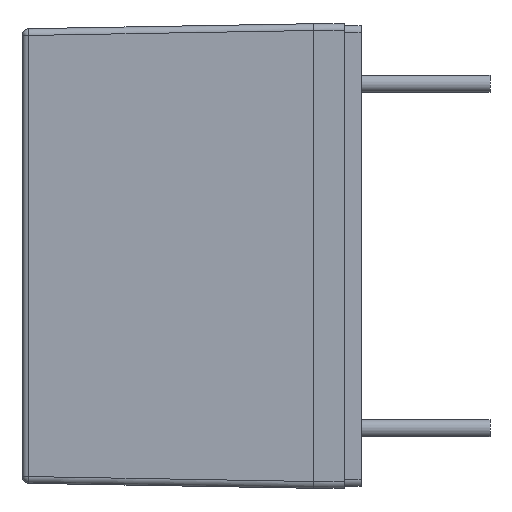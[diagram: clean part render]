
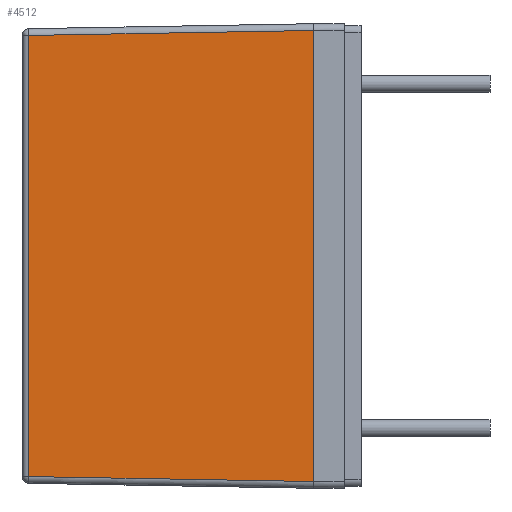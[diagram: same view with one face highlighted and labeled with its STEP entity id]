
A CAD part, left-side view. The second image highlights one B-rep face of the part: STEP entity #4512.
In plain terms, the highlighted planar face has unit normal (-1, 0.018, 0).
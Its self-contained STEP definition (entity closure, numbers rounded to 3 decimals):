
#95 = CARTESIAN_POINT ( 'NONE',  ( -11.853, 9.803, -6.7 ) ) ;
#104 = ORIENTED_EDGE ( 'NONE', *, *, #4484, .T. ) ;
#187 = DIRECTION ( 'NONE',  ( 0., 0., 1. ) ) ;
#432 = VERTEX_POINT ( 'NONE', #619 ) ;
#475 = EDGE_LOOP ( 'NONE', ( #3631, #104, #3980, #4545 ) ) ;
#524 = CARTESIAN_POINT ( 'NONE',  ( -11.996, 1.636, -6.646 ) ) ;
#619 = CARTESIAN_POINT ( 'NONE',  ( -11.853, 9.803, -6.503 ) ) ;
#912 = CARTESIAN_POINT ( 'NONE',  ( -12., 1.4, 6.85 ) ) ;
#936 = LINE ( 'NONE', #912, #2752 ) ;
#1266 = LINE ( 'NONE', #95, #3914 ) ;
#1619 = CARTESIAN_POINT ( 'NONE',  ( -11.853, 9.803, 6.503 ) ) ;
#1645 = EDGE_CURVE ( 'NONE', #2672, #3747, #1966, .T. ) ;
#1794 = VECTOR ( 'NONE', #3750, 1000. ) ;
#1966 = LINE ( 'NONE', #3929, #1794 ) ;
#1982 = DIRECTION ( 'NONE',  ( -0.017, -1., -0.017 ) ) ;
#2005 = EDGE_CURVE ( 'NONE', #3747, #432, #1266, .T. ) ;
#2289 = VECTOR ( 'NONE', #1982, 1000. ) ;
#2349 = DIRECTION ( 'NONE',  ( 0., 0., 1. ) ) ;
#2660 = PLANE ( 'NONE',  #3248 ) ;
#2672 = VERTEX_POINT ( 'NONE', #2714 ) ;
#2714 = CARTESIAN_POINT ( 'NONE',  ( -12., 1.4, 6.65 ) ) ;
#2752 = VECTOR ( 'NONE', #2349, 1000. ) ;
#2988 = DIRECTION ( 'NONE',  ( 0., 0., -1. ) ) ;
#2993 = EDGE_CURVE ( 'NONE', #4442, #2672, #936, .T. ) ;
#3081 = CARTESIAN_POINT ( 'NONE',  ( -12., 1.4, -6.65 ) ) ;
#3248 = AXIS2_PLACEMENT_3D ( 'NONE', #4110, #3770, #187 ) ;
#3395 = FACE_OUTER_BOUND ( 'NONE', #475, .T. ) ;
#3445 = LINE ( 'NONE', #524, #2289 ) ;
#3631 = ORIENTED_EDGE ( 'NONE', *, *, #2005, .T. ) ;
#3747 = VERTEX_POINT ( 'NONE', #1619 ) ;
#3750 = DIRECTION ( 'NONE',  ( 0.017, 1., -0.017 ) ) ;
#3770 = DIRECTION ( 'NONE',  ( -1., 0.017, 0. ) ) ;
#3914 = VECTOR ( 'NONE', #2988, 1000. ) ;
#3929 = CARTESIAN_POINT ( 'NONE',  ( -12., 1.397, 6.65 ) ) ;
#3980 = ORIENTED_EDGE ( 'NONE', *, *, #2993, .T. ) ;
#4110 = CARTESIAN_POINT ( 'NONE',  ( -12., 1.4, 6.85 ) ) ;
#4442 = VERTEX_POINT ( 'NONE', #3081 ) ;
#4484 = EDGE_CURVE ( 'NONE', #432, #4442, #3445, .T. ) ;
#4512 = ADVANCED_FACE ( 'NONE', ( #3395 ), #2660, .T. ) ;
#4545 = ORIENTED_EDGE ( 'NONE', *, *, #1645, .T. ) ;
